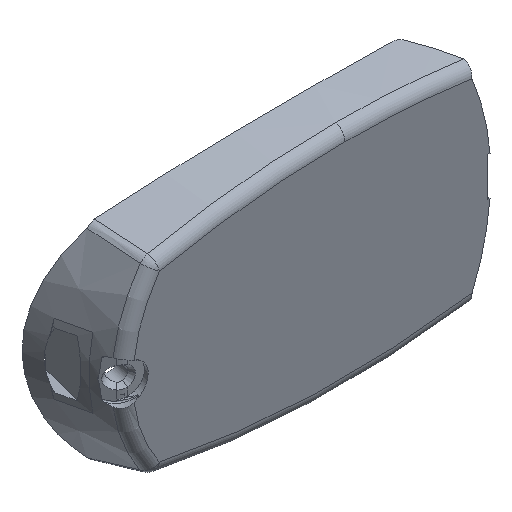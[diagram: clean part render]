
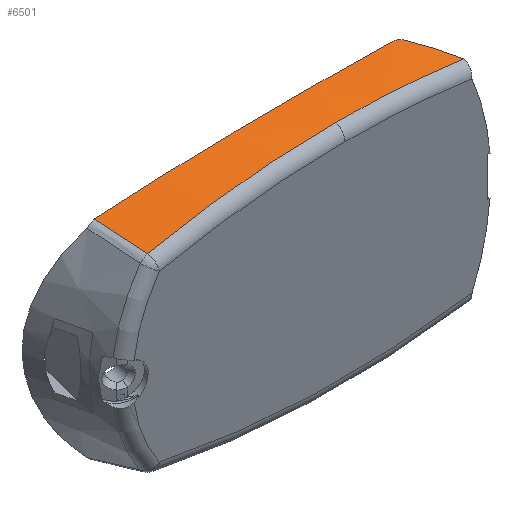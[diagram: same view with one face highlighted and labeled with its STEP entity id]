
A CAD part, isometric view. The second image highlights one B-rep face of the part: STEP entity #6501.
In plain terms, the highlighted conical face has half-angle 12.7 degrees and reference radius 150 mm.
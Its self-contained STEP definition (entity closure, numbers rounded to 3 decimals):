
#51 = DIRECTION ( 'NONE',  ( 0., 1., 0. ) ) ;
#64 = B_SPLINE_CURVE_WITH_KNOTS ( 'NONE', 3,
 ( #600, #1796, #7958, #4877, #1200, #5493, #1814, #6108, #2430, #6740, #7538, #7692, #4011, #338, #4614, #945, #5243, #1564, #5850, #2181, #6486, #2802, #7110, #3442 ),
 .UNSPECIFIED., .F., .F.,
 ( 4, 2, 2, 1, 1, 1, 2, 2, 2, 1, 1, 1, 2, 2, 4 ),
 ( 0., 0.5, 0.507, 0.515, 0.531, 0.562, 0.624, 0.749, 0.753, 0.757, 0.765, 0.781, 0.812, 0.874, 0.999 ),
 .UNSPECIFIED. ) ;
#229 = CARTESIAN_POINT ( 'NONE',  ( -25.01, 9.296, 17.044 ) ) ;
#241 = CARTESIAN_POINT ( 'NONE',  ( -24.875, 8.019, 16.778 ) ) ;
#338 = CARTESIAN_POINT ( 'NONE',  ( -13.327, 8.143, 18.811 ) ) ;
#468 = EDGE_CURVE ( 'NONE', #4447, #6003, #7854, .T. ) ;
#477 = CARTESIAN_POINT ( 'NONE',  ( 22.476, 7.81, 19.274 ) ) ;
#506 = FACE_OUTER_BOUND ( 'NONE', #4973, .T. ) ;
#600 = CARTESIAN_POINT ( 'NONE',  ( 22.476, 7.81, 19.274 ) ) ;
#693 = CARTESIAN_POINT ( 'NONE',  ( 6.841, 1.56, -131.679 ) ) ;
#945 = CARTESIAN_POINT ( 'NONE',  ( -13.607, 8.166, 18.779 ) ) ;
#1092 = ORIENTED_EDGE ( 'NONE', *, *, #1128, .T. ) ;
#1128 = EDGE_CURVE ( 'NONE', #5037, #4447, #2510, .T. ) ;
#1200 = CARTESIAN_POINT ( 'NONE',  ( -1.611, 7.443, 19.763 ) ) ;
#1265 = VERTEX_POINT ( 'NONE', #6404 ) ;
#1307 = DIRECTION ( 'NONE',  ( 0., 0., -1. ) ) ;
#1468 = CARTESIAN_POINT ( 'NONE',  ( -24.538, 5.455, 16.26 ) ) ;
#1471 = CARTESIAN_POINT ( 'NONE',  ( 26.811, 3.623, 17.814 ) ) ;
#1564 = CARTESIAN_POINT ( 'NONE',  ( -14.798, 8.266, 18.636 ) ) ;
#1587 = CARTESIAN_POINT ( 'NONE',  ( 23.999, 7.186, 18.967 ) ) ;
#1679 = CARTESIAN_POINT ( 'NONE',  ( 23.809, 7.403, 19.038 ) ) ;
#1777 = CARTESIAN_POINT ( 'NONE',  ( 27.885, 1.674, 17.219 ) ) ;
#1796 = CARTESIAN_POINT ( 'NONE',  ( 14.394, 7.283, 19.992 ) ) ;
#1814 = CARTESIAN_POINT ( 'NONE',  ( -2.206, 7.465, 19.734 ) ) ;
#2071 = DIRECTION ( 'NONE',  ( 0., 0., -1. ) ) ;
#2084 = CARTESIAN_POINT ( 'NONE',  ( -24.194, 2.859, 15.734 ) ) ;
#2181 = CARTESIAN_POINT ( 'NONE',  ( -16.9, 8.454, 18.363 ) ) ;
#2430 = CARTESIAN_POINT ( 'NONE',  ( -4.73, 7.574, 19.592 ) ) ;
#2456 = CARTESIAN_POINT ( 'NONE',  ( -25.042, 9.3, 17.038 ) ) ;
#2510 = B_SPLINE_CURVE_WITH_KNOTS ( 'NONE', 3,
 ( #2840, #7721, #3462, #7758 ),
 .UNSPECIFIED., .F., .F.,
 ( 4, 4 ),
 ( 0., 0. ),
 .UNSPECIFIED. ) ;
#2655 = AXIS2_PLACEMENT_3D ( 'NONE', #3724, #51, #4341 ) ;
#2726 = CARTESIAN_POINT ( 'NONE',  ( 23.999, 7.186, 18.967 ) ) ;
#2802 = CARTESIAN_POINT ( 'NONE',  ( -20.806, 8.835, 17.79 ) ) ;
#2840 = CARTESIAN_POINT ( 'NONE',  ( 27.929, 1.56, 17.187 ) ) ;
#2890 = CARTESIAN_POINT ( 'NONE',  ( -24.02, 1.56, 15.472 ) ) ;
#2894 = EDGE_CURVE ( 'NONE', #4611, #5508, #64, .T. ) ;
#2923 = CIRCLE ( 'NONE', #2655, 150.352 ) ;
#3077 = ORIENTED_EDGE ( 'NONE', *, *, #3243, .T. ) ;
#3243 = EDGE_CURVE ( 'NONE', #1265, #5037, #6609, .T. ) ;
#3442 = CARTESIAN_POINT ( 'NONE',  ( -24.994, 9.295, 17.047 ) ) ;
#3443 = CARTESIAN_POINT ( 'NONE',  ( -24.994, 9.295, 17.047 ) ) ;
#3462 = CARTESIAN_POINT ( 'NONE',  ( 27.905, 1.638, 17.208 ) ) ;
#3540 = CARTESIAN_POINT ( 'NONE',  ( 23.582, 7.565, 19.1 ) ) ;
#3724 = CARTESIAN_POINT ( 'NONE',  ( 6.841, 1.56, -131.679 ) ) ;
#3778 = ORIENTED_EDGE ( 'NONE', *, *, #6996, .T. ) ;
#3926 = CARTESIAN_POINT ( 'NONE',  ( 22.476, 7.81, 19.274 ) ) ;
#4011 = CARTESIAN_POINT ( 'NONE',  ( -13.275, 8.139, 18.817 ) ) ;
#4141 = CARTESIAN_POINT ( 'NONE',  ( 22.769, 7.829, 19.248 ) ) ;
#4282 = ORIENTED_EDGE ( 'NONE', *, *, #2894, .T. ) ;
#4341 = DIRECTION ( 'NONE',  ( 0., 0., -1. ) ) ;
#4372 = VERTEX_POINT ( 'NONE', #2890 ) ;
#4388 = B_SPLINE_CURVE_WITH_KNOTS ( 'NONE', 3,
 ( #6930, #241, #5145, #1468, #5756, #2084, #6389 ),
 .UNSPECIFIED., .F., .F.,
 ( 4, 3, 4 ),
 ( 0., 0.004, 0.008 ),
 .UNSPECIFIED. ) ;
#4447 = VERTEX_POINT ( 'NONE', #1777 ) ;
#4529 = CARTESIAN_POINT ( 'NONE',  ( 6.841, 0., -131.679 ) ) ;
#4611 = VERTEX_POINT ( 'NONE', #3926 ) ;
#4614 = CARTESIAN_POINT ( 'NONE',  ( -13.439, 8.152, 18.798 ) ) ;
#4760 = ORIENTED_EDGE ( 'NONE', *, *, #4965, .T. ) ;
#4766 = B_SPLINE_CURVE_WITH_KNOTS ( 'NONE', 3,
 ( #7583, #229, #7392, #7425 ),
 .UNSPECIFIED., .F., .F.,
 ( 4, 4 ),
 ( 0., 1. ),
 .UNSPECIFIED. ) ;
#4877 = CARTESIAN_POINT ( 'NONE',  ( -1.494, 7.439, 19.769 ) ) ;
#4943 = VERTEX_POINT ( 'NONE', #2456 ) ;
#4965 = EDGE_CURVE ( 'NONE', #4372, #1265, #2923, .T. ) ;
#4973 = EDGE_LOOP ( 'NONE', ( #4282, #7288, #5375, #4760, #3077, #1092, #5744, #3778 ) ) ;
#4980 = CARTESIAN_POINT ( 'NONE',  ( 27.929, 1.56, 17.187 ) ) ;
#4987 = DIRECTION ( 'NONE',  ( 0., 1., 0. ) ) ;
#4996 = B_SPLINE_CURVE_WITH_KNOTS ( 'NONE', 3,
 ( #1587, #1679, #3540, #7826, #4141, #477 ),
 .UNSPECIFIED., .F., .F.,
 ( 4, 2, 4 ),
 ( 0., 0.5, 1. ),
 .UNSPECIFIED. ) ;
#5037 = VERTEX_POINT ( 'NONE', #4980 ) ;
#5145 = CARTESIAN_POINT ( 'NONE',  ( -24.707, 6.737, 16.519 ) ) ;
#5243 = CARTESIAN_POINT ( 'NONE',  ( -14.002, 8.199, 18.732 ) ) ;
#5375 = ORIENTED_EDGE ( 'NONE', *, *, #6939, .T. ) ;
#5493 = CARTESIAN_POINT ( 'NONE',  ( -1.849, 7.452, 19.752 ) ) ;
#5508 = VERTEX_POINT ( 'NONE', #3443 ) ;
#5632 = AXIS2_PLACEMENT_3D ( 'NONE', #693, #4987, #1307 ) ;
#5744 = ORIENTED_EDGE ( 'NONE', *, *, #468, .T. ) ;
#5756 = CARTESIAN_POINT ( 'NONE',  ( -24.366, 4.157, 15.997 ) ) ;
#5850 = CARTESIAN_POINT ( 'NONE',  ( -15.493, 8.327, 18.548 ) ) ;
#5878 = CARTESIAN_POINT ( 'NONE',  ( 25.517, 5.46, 18.403 ) ) ;
#6003 = VERTEX_POINT ( 'NONE', #2726 ) ;
#6108 = CARTESIAN_POINT ( 'NONE',  ( -3.044, 7.499, 19.69 ) ) ;
#6373 = DIRECTION ( 'NONE',  ( 0., 1., 0. ) ) ;
#6389 = CARTESIAN_POINT ( 'NONE',  ( -24.02, 1.56, 15.472 ) ) ;
#6404 = CARTESIAN_POINT ( 'NONE',  ( 6.841, 1.56, 18.673 ) ) ;
#6486 = CARTESIAN_POINT ( 'NONE',  ( -17.86, 8.545, 18.229 ) ) ;
#6501 = ADVANCED_FACE ( 'NONE', ( #506 ), #6650, .T. ) ;
#6512 = CARTESIAN_POINT ( 'NONE',  ( 27.885, 1.674, 17.219 ) ) ;
#6609 = CIRCLE ( 'NONE', #5632, 150.352 ) ;
#6650 = CONICAL_SURFACE ( 'NONE', #7835, 150., 0.222 ) ;
#6740 = CARTESIAN_POINT ( 'NONE',  ( -6.197, 7.652, 19.488 ) ) ;
#6930 = CARTESIAN_POINT ( 'NONE',  ( -25.042, 9.3, 17.038 ) ) ;
#6939 = EDGE_CURVE ( 'NONE', #4943, #4372, #4388, .T. ) ;
#6996 = EDGE_CURVE ( 'NONE', #6003, #4611, #4996, .T. ) ;
#7110 = CARTESIAN_POINT ( 'NONE',  ( -22.858, 9.053, 17.449 ) ) ;
#7134 = CARTESIAN_POINT ( 'NONE',  ( 23.999, 7.186, 18.967 ) ) ;
#7288 = ORIENTED_EDGE ( 'NONE', *, *, #7304, .T. ) ;
#7304 = EDGE_CURVE ( 'NONE', #5508, #4943, #4766, .T. ) ;
#7392 = CARTESIAN_POINT ( 'NONE',  ( -25.026, 9.297, 17.041 ) ) ;
#7425 = CARTESIAN_POINT ( 'NONE',  ( -25.042, 9.3, 17.038 ) ) ;
#7538 = CARTESIAN_POINT ( 'NONE',  ( -9.157, 7.827, 19.253 ) ) ;
#7583 = CARTESIAN_POINT ( 'NONE',  ( -24.994, 9.295, 17.047 ) ) ;
#7692 = CARTESIAN_POINT ( 'NONE',  ( -11.166, 7.968, 19.059 ) ) ;
#7721 = CARTESIAN_POINT ( 'NONE',  ( 27.919, 1.6, 17.197 ) ) ;
#7758 = CARTESIAN_POINT ( 'NONE',  ( 27.885, 1.674, 17.219 ) ) ;
#7826 = CARTESIAN_POINT ( 'NONE',  ( 23.049, 7.784, 19.208 ) ) ;
#7835 = AXIS2_PLACEMENT_3D ( 'NONE', #4529, #6373, #2071 ) ;
#7854 = B_SPLINE_CURVE_WITH_KNOTS ( 'NONE', 3,
 ( #6512, #1471, #5878, #7134 ),
 .UNSPECIFIED., .F., .F.,
 ( 4, 4 ),
 ( 0.019, 1. ),
 .UNSPECIFIED. ) ;
#7958 = CARTESIAN_POINT ( 'NONE',  ( 6.425, 7.158, 20.135 ) ) ;
